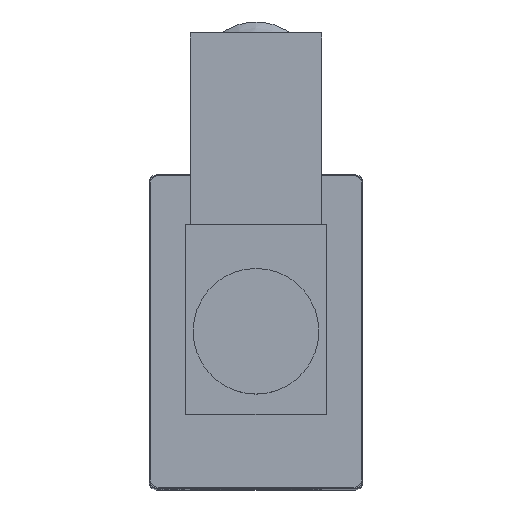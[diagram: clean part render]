
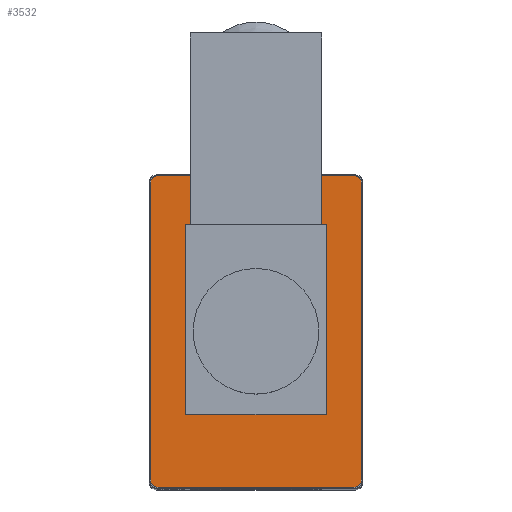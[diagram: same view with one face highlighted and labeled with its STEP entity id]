
A CAD part, top view. The second image highlights one B-rep face of the part: STEP entity #3532.
In plain terms, the highlighted planar face has unit normal (0, 0, 1).
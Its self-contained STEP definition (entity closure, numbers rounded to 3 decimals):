
#17 = VECTOR ( 'NONE', #670, 1000. ) ;
#39 = LINE ( 'NONE', #4400, #4326 ) ;
#132 = VERTEX_POINT ( 'NONE', #4473 ) ;
#142 = CARTESIAN_POINT ( 'NONE',  ( -15.6, -23.6, 28.2 ) ) ;
#149 = EDGE_CURVE ( 'NONE', #669, #132, #607, .T. ) ;
#193 = DIRECTION ( 'NONE',  ( 1., 0., 0. ) ) ;
#325 = VERTEX_POINT ( 'NONE', #3137 ) ;
#337 = DIRECTION ( 'NONE',  ( 0., 0., 1. ) ) ;
#364 = EDGE_CURVE ( 'NONE', #1837, #1680, #776, .T. ) ;
#459 = DIRECTION ( 'NONE',  ( 1., 0., 0. ) ) ;
#514 = ORIENTED_EDGE ( 'NONE', *, *, #364, .T. ) ;
#602 = CARTESIAN_POINT ( 'NONE',  ( -16.8, -23.6, 28.2 ) ) ;
#607 = LINE ( 'NONE', #3784, #2088 ) ;
#656 = DIRECTION ( 'NONE',  ( 0., 1., 0. ) ) ;
#669 = VERTEX_POINT ( 'NONE', #4905 ) ;
#670 = DIRECTION ( 'NONE',  ( 1., 0., 0. ) ) ;
#776 = LINE ( 'NONE', #3882, #3707 ) ;
#794 = LINE ( 'NONE', #3061, #4094 ) ;
#827 = ORIENTED_EDGE ( 'NONE', *, *, #4576, .T. ) ;
#845 = VERTEX_POINT ( 'NONE', #3927 ) ;
#857 = AXIS2_PLACEMENT_3D ( 'NONE', #2488, #2000, #3630 ) ;
#865 = ORIENTED_EDGE ( 'NONE', *, *, #4193, .T. ) ;
#904 = ORIENTED_EDGE ( 'NONE', *, *, #3483, .T. ) ;
#1057 = CARTESIAN_POINT ( 'NONE',  ( 15.6, -23.6, 28.2 ) ) ;
#1109 = ORIENTED_EDGE ( 'NONE', *, *, #2014, .T. ) ;
#1315 = CARTESIAN_POINT ( 'NONE',  ( 15.6, 24.8, 28.2 ) ) ;
#1332 = CARTESIAN_POINT ( 'NONE',  ( 16.8, 23.6, 28.2 ) ) ;
#1383 = DIRECTION ( 'NONE',  ( 0., 0., 1. ) ) ;
#1429 = DIRECTION ( 'NONE',  ( 0., 0., 1. ) ) ;
#1520 = DIRECTION ( 'NONE',  ( 1., 0., 0. ) ) ;
#1680 = VERTEX_POINT ( 'NONE', #602 ) ;
#1690 = DIRECTION ( 'NONE',  ( -1., 0., 0. ) ) ;
#1724 = DIRECTION ( 'NONE',  ( -1., 0., 0. ) ) ;
#1748 = CARTESIAN_POINT ( 'NONE',  ( 11.15, -13.2, 28.2 ) ) ;
#1837 = VERTEX_POINT ( 'NONE', #4072 ) ;
#1849 = CIRCLE ( 'NONE', #2926, 1.2 ) ;
#1925 = CARTESIAN_POINT ( 'NONE',  ( 11.15, -13.2, 28.2 ) ) ;
#2000 = DIRECTION ( 'NONE',  ( 0., 0., 1. ) ) ;
#2014 = EDGE_CURVE ( 'NONE', #3760, #3157, #2530, .T. ) ;
#2034 = DIRECTION ( 'NONE',  ( -1., 0., 0. ) ) ;
#2083 = LINE ( 'NONE', #1748, #3033 ) ;
#2088 = VECTOR ( 'NONE', #656, 1000. ) ;
#2135 = EDGE_CURVE ( 'NONE', #3157, #845, #2582, .T. ) ;
#2137 = LINE ( 'NONE', #4842, #2936 ) ;
#2341 = CARTESIAN_POINT ( 'NONE',  ( 11.15, -13.2, 28.2 ) ) ;
#2418 = DIRECTION ( 'NONE',  ( 0., 0., 1. ) ) ;
#2488 = CARTESIAN_POINT ( 'NONE',  ( 15.6, 23.6, 28.2 ) ) ;
#2530 = LINE ( 'NONE', #2636, #17 ) ;
#2578 = AXIS2_PLACEMENT_3D ( 'NONE', #1057, #337, #1520 ) ;
#2582 = CIRCLE ( 'NONE', #2578, 1.2 ) ;
#2601 = CARTESIAN_POINT ( 'NONE',  ( -15.6, 23.6, 28.2 ) ) ;
#2604 = ORIENTED_EDGE ( 'NONE', *, *, #3633, .F. ) ;
#2629 = FACE_BOUND ( 'NONE', #4180, .T. ) ;
#2636 = CARTESIAN_POINT ( 'NONE',  ( -15.6, -24.8, 28.2 ) ) ;
#2808 = ORIENTED_EDGE ( 'NONE', *, *, #149, .T. ) ;
#2926 = AXIS2_PLACEMENT_3D ( 'NONE', #142, #2418, #459 ) ;
#2936 = VECTOR ( 'NONE', #1724, 1000. ) ;
#2963 = ORIENTED_EDGE ( 'NONE', *, *, #3332, .T. ) ;
#2986 = DIRECTION ( 'NONE',  ( 1., 0., 0. ) ) ;
#3023 = AXIS2_PLACEMENT_3D ( 'NONE', #3735, #1383, #193 ) ;
#3033 = VECTOR ( 'NONE', #2034, 1000. ) ;
#3055 = VERTEX_POINT ( 'NONE', #1315 ) ;
#3061 = CARTESIAN_POINT ( 'NONE',  ( 16.8, -23.6, 28.2 ) ) ;
#3066 = DIRECTION ( 'NONE',  ( 0., 1., 0. ) ) ;
#3137 = CARTESIAN_POINT ( 'NONE',  ( 11.15, 17., 28.2 ) ) ;
#3157 = VERTEX_POINT ( 'NONE', #4299 ) ;
#3159 = ORIENTED_EDGE ( 'NONE', *, *, #5105, .F. ) ;
#3282 = EDGE_CURVE ( 'NONE', #3055, #3923, #39, .T. ) ;
#3291 = ORIENTED_EDGE ( 'NONE', *, *, #4053, .T. ) ;
#3332 = EDGE_CURVE ( 'NONE', #4166, #3055, #3669, .T. ) ;
#3347 = CARTESIAN_POINT ( 'NONE',  ( -15.6, 24.8, 28.2 ) ) ;
#3483 = EDGE_CURVE ( 'NONE', #3923, #1837, #4740, .T. ) ;
#3532 = ADVANCED_FACE ( 'NONE', ( #4169, #2629 ), #4506, .T. ) ;
#3630 = DIRECTION ( 'NONE',  ( 1., 0., 0. ) ) ;
#3633 = EDGE_CURVE ( 'NONE', #4540, #325, #4248, .T. ) ;
#3669 = CIRCLE ( 'NONE', #857, 1.2 ) ;
#3676 = AXIS2_PLACEMENT_3D ( 'NONE', #2601, #1429, #2986 ) ;
#3707 = VECTOR ( 'NONE', #4291, 1000. ) ;
#3735 = CARTESIAN_POINT ( 'NONE',  ( -15.6, 23.6, 28.2 ) ) ;
#3760 = VERTEX_POINT ( 'NONE', #3961 ) ;
#3784 = CARTESIAN_POINT ( 'NONE',  ( -11.15, -13.2, 28.2 ) ) ;
#3785 = ORIENTED_EDGE ( 'NONE', *, *, #2135, .T. ) ;
#3882 = CARTESIAN_POINT ( 'NONE',  ( -16.8, 23.6, 28.2 ) ) ;
#3923 = VERTEX_POINT ( 'NONE', #3347 ) ;
#3927 = CARTESIAN_POINT ( 'NONE',  ( 16.8, -23.6, 28.2 ) ) ;
#3961 = CARTESIAN_POINT ( 'NONE',  ( -15.6, -24.8, 28.2 ) ) ;
#4053 = EDGE_CURVE ( 'NONE', #845, #4166, #794, .T. ) ;
#4072 = CARTESIAN_POINT ( 'NONE',  ( -16.8, 23.6, 28.2 ) ) ;
#4094 = VECTOR ( 'NONE', #4634, 1000. ) ;
#4166 = VERTEX_POINT ( 'NONE', #1332 ) ;
#4169 = FACE_OUTER_BOUND ( 'NONE', #4183, .T. ) ;
#4180 = EDGE_LOOP ( 'NONE', ( #865, #2808, #3159, #2604 ) ) ;
#4183 = EDGE_LOOP ( 'NONE', ( #904, #514, #827, #1109, #3785, #3291, #2963, #4899 ) ) ;
#4193 = EDGE_CURVE ( 'NONE', #4540, #669, #2083, .T. ) ;
#4248 = LINE ( 'NONE', #1925, #4260 ) ;
#4260 = VECTOR ( 'NONE', #3066, 1000. ) ;
#4291 = DIRECTION ( 'NONE',  ( 0., -1., 0. ) ) ;
#4299 = CARTESIAN_POINT ( 'NONE',  ( 15.6, -24.8, 28.2 ) ) ;
#4326 = VECTOR ( 'NONE', #1690, 1000. ) ;
#4400 = CARTESIAN_POINT ( 'NONE',  ( 15.6, 24.8, 28.2 ) ) ;
#4473 = CARTESIAN_POINT ( 'NONE',  ( -11.15, 17., 28.2 ) ) ;
#4506 = PLANE ( 'NONE',  #3023 ) ;
#4540 = VERTEX_POINT ( 'NONE', #2341 ) ;
#4576 = EDGE_CURVE ( 'NONE', #1680, #3760, #1849, .T. ) ;
#4634 = DIRECTION ( 'NONE',  ( 0., 1., 0. ) ) ;
#4740 = CIRCLE ( 'NONE', #3676, 1.2 ) ;
#4842 = CARTESIAN_POINT ( 'NONE',  ( 11.15, 17., 28.2 ) ) ;
#4899 = ORIENTED_EDGE ( 'NONE', *, *, #3282, .T. ) ;
#4905 = CARTESIAN_POINT ( 'NONE',  ( -11.15, -13.2, 28.2 ) ) ;
#5105 = EDGE_CURVE ( 'NONE', #325, #132, #2137, .T. ) ;
